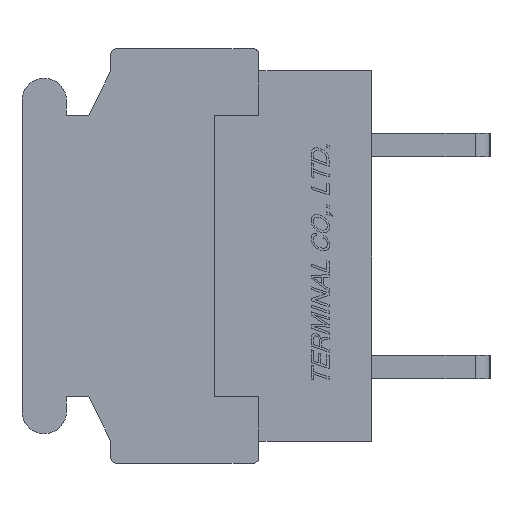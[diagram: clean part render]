
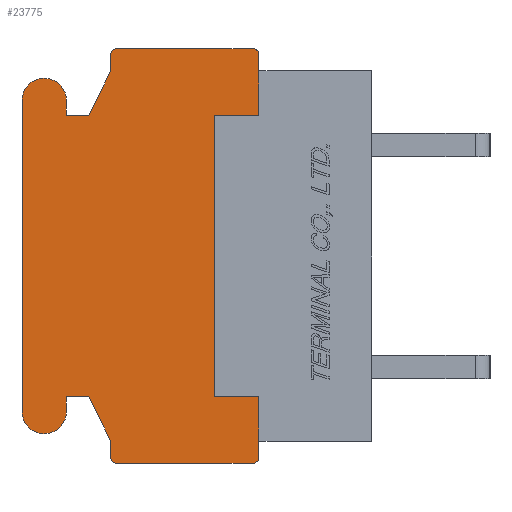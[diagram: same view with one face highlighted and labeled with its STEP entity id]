
A CAD part, left-side view. The second image highlights one B-rep face of the part: STEP entity #23775.
In plain terms, the highlighted planar face has unit normal (-1, 0, 0).
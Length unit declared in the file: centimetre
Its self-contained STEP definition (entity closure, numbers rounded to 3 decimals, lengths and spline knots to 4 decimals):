
#1236=CIRCLE('',#40009,0.02);
#1237=CIRCLE('',#40013,0.02);
#1238=CIRCLE('',#40016,0.02);
#1239=CIRCLE('',#40022,0.075);
#1240=CIRCLE('',#40025,0.075);
#1241=CIRCLE('',#40031,0.02);
#3264=VERTEX_POINT('',#36918);
#3265=VERTEX_POINT('',#36920);
#3266=VERTEX_POINT('',#36924);
#3267=VERTEX_POINT('',#36928);
#3268=VERTEX_POINT('',#36930);
#3269=VERTEX_POINT('',#36934);
#3270=VERTEX_POINT('',#36938);
#3271=VERTEX_POINT('',#36942);
#3272=VERTEX_POINT('',#36946);
#3273=VERTEX_POINT('',#36950);
#3274=VERTEX_POINT('',#36954);
#3275=VERTEX_POINT('',#36958);
#3276=VERTEX_POINT('',#36962);
#3277=VERTEX_POINT('',#36966);
#3278=VERTEX_POINT('',#36970);
#3279=VERTEX_POINT('',#36974);
#3280=VERTEX_POINT('',#36978);
#3281=VERTEX_POINT('',#36982);
#3282=VERTEX_POINT('',#36986);
#3283=VERTEX_POINT('',#36990);
#3284=VERTEX_POINT('',#36996);
#3285=VERTEX_POINT('',#36998);
#3286=VERTEX_POINT('',#37000);
#3287=VERTEX_POINT('',#37002);
#5834=VECTOR('',#29339,1.);
#5836=VECTOR('',#29342,1.);
#5840=VECTOR('',#29351,1.);
#5843=VECTOR('',#29359,1.);
#5845=VECTOR('',#29362,1.);
#5847=VECTOR('',#29365,1.);
#5849=VECTOR('',#29368,1.);
#5852=VECTOR('',#29376,1.);
#5855=VECTOR('',#29384,1.);
#5857=VECTOR('',#29387,1.);
#5859=VECTOR('',#29390,1.);
#5861=VECTOR('',#29393,1.);
#5863=VECTOR('',#29400,1.);
#5864=VECTOR('',#29402,1.);
#5865=VECTOR('',#29403,1.);
#5866=VECTOR('',#29404,1.);
#5867=VECTOR('',#29405,1.);
#5868=VECTOR('',#29406,1.);
#8482=LINE('',#36925,#5834);
#8484=LINE('',#36929,#5836);
#8488=LINE('',#36939,#5840);
#8491=LINE('',#36947,#5843);
#8493=LINE('',#36951,#5845);
#8495=LINE('',#36955,#5847);
#8497=LINE('',#36959,#5849);
#8500=LINE('',#36967,#5852);
#8503=LINE('',#36975,#5855);
#8505=LINE('',#36979,#5857);
#8507=LINE('',#36983,#5859);
#8509=LINE('',#36987,#5861);
#8511=LINE('',#36993,#5863);
#8512=LINE('',#36995,#5864);
#8513=LINE('',#36997,#5865);
#8514=LINE('',#36999,#5866);
#8515=LINE('',#37001,#5867);
#8516=LINE('',#37003,#5868);
#11974=EDGE_CURVE('',#3264,#3265,#1236,.T.);
#11977=EDGE_CURVE('',#3266,#3264,#8482,.T.);
#11979=EDGE_CURVE('',#3267,#3268,#8484,.T.);
#11982=EDGE_CURVE('',#3269,#3267,#1237,.T.);
#11984=EDGE_CURVE('',#3270,#3269,#8488,.T.);
#11986=EDGE_CURVE('',#3271,#3270,#1238,.T.);
#11988=EDGE_CURVE('',#3272,#3271,#8491,.T.);
#11990=EDGE_CURVE('',#3273,#3272,#8493,.T.);
#11992=EDGE_CURVE('',#3274,#3273,#8495,.T.);
#11994=EDGE_CURVE('',#3275,#3274,#8497,.T.);
#11996=EDGE_CURVE('',#3276,#3275,#1239,.T.);
#11998=EDGE_CURVE('',#3277,#3276,#8500,.T.);
#12000=EDGE_CURVE('',#3278,#3277,#1240,.T.);
#12002=EDGE_CURVE('',#3279,#3278,#8503,.T.);
#12004=EDGE_CURVE('',#3280,#3279,#8505,.T.);
#12006=EDGE_CURVE('',#3281,#3280,#8507,.T.);
#12008=EDGE_CURVE('',#3282,#3281,#8509,.T.);
#12010=EDGE_CURVE('',#3283,#3282,#1241,.T.);
#12011=EDGE_CURVE('',#3265,#3283,#8511,.T.);
#12012=EDGE_CURVE('',#3284,#3268,#8512,.T.);
#12013=EDGE_CURVE('',#3266,#3285,#8513,.T.);
#12014=EDGE_CURVE('',#3285,#3286,#8514,.T.);
#12015=EDGE_CURVE('',#3286,#3287,#8515,.T.);
#12016=EDGE_CURVE('',#3287,#3284,#8516,.T.);
#18588=ORIENTED_EDGE('',*,*,#12012,.T.);
#18589=ORIENTED_EDGE('',*,*,#11979,.F.);
#18590=ORIENTED_EDGE('',*,*,#11982,.F.);
#18591=ORIENTED_EDGE('',*,*,#11984,.F.);
#18592=ORIENTED_EDGE('',*,*,#11986,.F.);
#18593=ORIENTED_EDGE('',*,*,#11988,.F.);
#18594=ORIENTED_EDGE('',*,*,#11990,.F.);
#18595=ORIENTED_EDGE('',*,*,#11992,.F.);
#18596=ORIENTED_EDGE('',*,*,#11994,.F.);
#18597=ORIENTED_EDGE('',*,*,#11996,.F.);
#18598=ORIENTED_EDGE('',*,*,#11998,.F.);
#18599=ORIENTED_EDGE('',*,*,#12000,.F.);
#18600=ORIENTED_EDGE('',*,*,#12002,.F.);
#18601=ORIENTED_EDGE('',*,*,#12004,.F.);
#18602=ORIENTED_EDGE('',*,*,#12006,.F.);
#18603=ORIENTED_EDGE('',*,*,#12008,.F.);
#18604=ORIENTED_EDGE('',*,*,#12010,.F.);
#18605=ORIENTED_EDGE('',*,*,#12011,.F.);
#18606=ORIENTED_EDGE('',*,*,#11974,.F.);
#18607=ORIENTED_EDGE('',*,*,#11977,.F.);
#18608=ORIENTED_EDGE('',*,*,#12013,.T.);
#18609=ORIENTED_EDGE('',*,*,#12014,.T.);
#18610=ORIENTED_EDGE('',*,*,#12015,.T.);
#18611=ORIENTED_EDGE('',*,*,#12016,.T.);
#20951=EDGE_LOOP('',(#18588,#18589,#18590,#18591,#18592,#18593,#18594,#18595,
#18596,#18597,#18598,#18599,#18600,#18601,#18602,#18603,#18604,#18605,#18606,
#18607,#18608,#18609,#18610,#18611));
#22401=FACE_BOUND('',#20951,.T.);
#23775=ADVANCED_FACE('',(#22401),#24771,.F.);
#24771=PLANE('',#40033);
#29334=DIRECTION('',(1.,0.,0.));
#29335=DIRECTION('',(0.,0.,-0.02));
#29339=DIRECTION('',(0.,0.,-1.));
#29342=DIRECTION('',(0.,0.,-1.));
#29347=DIRECTION('',(1.,0.,0.));
#29348=DIRECTION('',(0.,0.,-0.02));
#29351=DIRECTION('',(0.,-1.,0.));
#29355=DIRECTION('',(1.,0.,0.));
#29356=DIRECTION('',(0.,0.,-0.02));
#29359=DIRECTION('',(0.,0.,1.));
#29362=DIRECTION('',(0.,-0.447,0.894));
#29365=DIRECTION('',(0.,-1.,0.));
#29368=DIRECTION('',(0.,0.,-1.));
#29372=DIRECTION('',(1.,0.,0.));
#29373=DIRECTION('',(0.,0.,-0.075));
#29376=DIRECTION('',(0.,0.,1.));
#29380=DIRECTION('',(1.,0.,0.));
#29381=DIRECTION('',(0.,0.,-0.075));
#29384=DIRECTION('',(0.,0.,-1.));
#29387=DIRECTION('',(0.,1.,0.));
#29390=DIRECTION('',(0.,0.447,0.894));
#29393=DIRECTION('',(0.,0.,1.));
#29397=DIRECTION('',(1.,0.,0.));
#29398=DIRECTION('',(0.,0.,-0.02));
#29400=DIRECTION('',(0.,1.,0.));
#29401=DIRECTION('',(1.,0.,0.));
#29402=DIRECTION('',(0.,0.,1.));
#29403=DIRECTION('',(0.,0.,1.));
#29404=DIRECTION('',(0.,1.,0.));
#29405=DIRECTION('',(0.,0.,1.));
#29406=DIRECTION('',(0.,-1.,0.));
#36918=CARTESIAN_POINT('',(-0.762,0.38,-0.68));
#36919=CARTESIAN_POINT('',(-0.762,0.4,-0.68));
#36920=CARTESIAN_POINT('',(-0.762,0.4,-0.7));
#36924=CARTESIAN_POINT('',(-0.762,0.38,-0.625));
#36925=CARTESIAN_POINT('',(-0.762,0.38,-0.625));
#36928=CARTESIAN_POINT('',(-0.762,0.38,0.68));
#36929=CARTESIAN_POINT('',(-0.762,0.38,0.68));
#36930=CARTESIAN_POINT('',(-0.762,0.38,0.625));
#36934=CARTESIAN_POINT('',(-0.762,0.4,0.7));
#36935=CARTESIAN_POINT('',(-0.762,0.4,0.68));
#36938=CARTESIAN_POINT('',(-0.762,0.86,0.7));
#36939=CARTESIAN_POINT('',(-0.762,0.86,0.7));
#36942=CARTESIAN_POINT('',(-0.762,0.88,0.68));
#36943=CARTESIAN_POINT('',(-0.762,0.86,0.68));
#36946=CARTESIAN_POINT('',(-0.762,0.88,0.625));
#36947=CARTESIAN_POINT('',(-0.762,0.88,0.625));
#36950=CARTESIAN_POINT('',(-0.762,0.955,0.475));
#36951=CARTESIAN_POINT('',(-0.762,0.955,0.475));
#36954=CARTESIAN_POINT('',(-0.762,1.03,0.475));
#36955=CARTESIAN_POINT('',(-0.762,1.03,0.475));
#36958=CARTESIAN_POINT('',(-0.762,1.03,0.525));
#36959=CARTESIAN_POINT('',(-0.762,1.03,0.525));
#36962=CARTESIAN_POINT('',(-0.762,1.18,0.525));
#36963=CARTESIAN_POINT('',(-0.762,1.105,0.525));
#36966=CARTESIAN_POINT('',(-0.762,1.18,-0.525));
#36967=CARTESIAN_POINT('',(-0.762,1.18,-0.525));
#36970=CARTESIAN_POINT('',(-0.762,1.03,-0.525));
#36971=CARTESIAN_POINT('',(-0.762,1.105,-0.525));
#36974=CARTESIAN_POINT('',(-0.762,1.03,-0.475));
#36975=CARTESIAN_POINT('',(-0.762,1.03,-0.475));
#36978=CARTESIAN_POINT('',(-0.762,0.955,-0.475));
#36979=CARTESIAN_POINT('',(-0.762,0.955,-0.475));
#36982=CARTESIAN_POINT('',(-0.762,0.88,-0.625));
#36983=CARTESIAN_POINT('',(-0.762,0.88,-0.625));
#36986=CARTESIAN_POINT('',(-0.762,0.88,-0.68));
#36987=CARTESIAN_POINT('',(-0.762,0.88,-0.68));
#36990=CARTESIAN_POINT('',(-0.762,0.86,-0.7));
#36991=CARTESIAN_POINT('',(-0.762,0.86,-0.68));
#36993=CARTESIAN_POINT('',(-0.762,0.4,-0.7));
#36994=CARTESIAN_POINT('',(-0.762,0.6059,0.));
#36995=CARTESIAN_POINT('',(-0.762,0.38,0.475));
#36996=CARTESIAN_POINT('',(-0.762,0.38,0.475));
#36997=CARTESIAN_POINT('',(-0.762,0.38,-0.625));
#36998=CARTESIAN_POINT('',(-0.762,0.38,-0.475));
#36999=CARTESIAN_POINT('',(-0.762,0.38,-0.475));
#37000=CARTESIAN_POINT('',(-0.762,0.53,-0.475));
#37001=CARTESIAN_POINT('',(-0.762,0.53,-0.475));
#37002=CARTESIAN_POINT('',(-0.762,0.53,0.475));
#37003=CARTESIAN_POINT('',(-0.762,0.53,0.475));
#40009=AXIS2_PLACEMENT_3D('',#36919,#29334,#29335);
#40013=AXIS2_PLACEMENT_3D('',#36935,#29347,#29348);
#40016=AXIS2_PLACEMENT_3D('',#36943,#29355,#29356);
#40022=AXIS2_PLACEMENT_3D('',#36963,#29372,#29373);
#40025=AXIS2_PLACEMENT_3D('',#36971,#29380,#29381);
#40031=AXIS2_PLACEMENT_3D('',#36991,#29397,#29398);
#40033=AXIS2_PLACEMENT_3D('',#36994,#29401,$);
